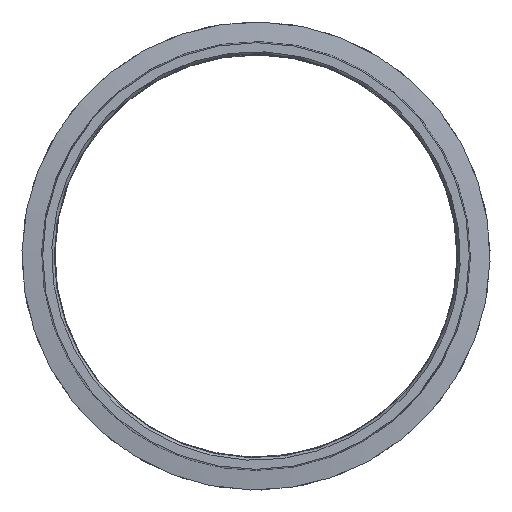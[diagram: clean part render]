
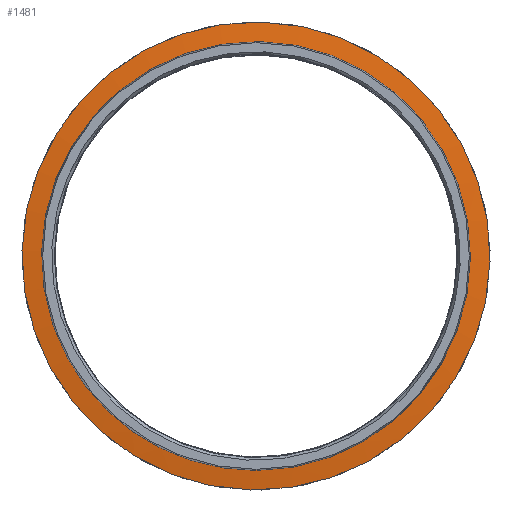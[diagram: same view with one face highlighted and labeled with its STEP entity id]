
A CAD part, left-side view. The second image highlights one B-rep face of the part: STEP entity #1481.
In plain terms, the highlighted conical face has half-angle 83 degrees and reference radius 48.463 mm.
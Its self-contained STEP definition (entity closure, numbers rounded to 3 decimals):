
#272=FACE_OUTER_BOUND('',#380,.T.);
#380=EDGE_LOOP('',(#1238,#1239,#1240,#1241,#1242));
#412=LINE('',#9886,#429);
#429=VECTOR('',#1913,48.463);
#505=CIRCLE('',#1608,52.9);
#506=CIRCLE('',#1609,48.463);
#507=CIRCLE('',#1610,48.463);
#647=VERTEX_POINT('',#5263);
#648=VERTEX_POINT('',#5293);
#649=VERTEX_POINT('',#5294);
#818=EDGE_CURVE('',#647,#647,#505,.T.);
#820=EDGE_CURVE('',#648,#649,#506,.T.);
#821=EDGE_CURVE('',#649,#648,#507,.T.);
#864=EDGE_CURVE('',#647,#648,#412,.T.);
#1238=ORIENTED_EDGE('',*,*,#818,.T.);
#1239=ORIENTED_EDGE('',*,*,#864,.T.);
#1240=ORIENTED_EDGE('',*,*,#820,.T.);
#1241=ORIENTED_EDGE('',*,*,#821,.T.);
#1242=ORIENTED_EDGE('',*,*,#864,.F.);
#1309=CONICAL_SURFACE('',#1641,48.463,1.449);
#1481=ADVANCED_FACE('',(#272),#1309,.T.);
#1608=AXIS2_PLACEMENT_3D('',#5264,#1843,#1844);
#1609=AXIS2_PLACEMENT_3D('',#5295,#1846,#1847);
#1610=AXIS2_PLACEMENT_3D('',#5296,#1848,#1849);
#1641=AXIS2_PLACEMENT_3D('',#9885,#1911,#1912);
#1843=DIRECTION('center_axis',(-1.,0.,0.));
#1844=DIRECTION('ref_axis',(0.,-0.878,0.479));
#1846=DIRECTION('center_axis',(1.,0.,0.));
#1847=DIRECTION('ref_axis',(0.,-0.878,0.479));
#1848=DIRECTION('center_axis',(1.,0.,0.));
#1849=DIRECTION('ref_axis',(0.,-0.878,0.479));
#1911=DIRECTION('center_axis',(1.,0.,0.));
#1912=DIRECTION('ref_axis',(0.,-0.878,0.479));
#1913=DIRECTION('',(-0.122,-0.871,0.476));
#5263=CARTESIAN_POINT('',(-58.201,46.424,-25.362));
#5264=CARTESIAN_POINT('Origin',(-58.201,0.,0.));
#5293=CARTESIAN_POINT('',(-58.746,42.53,-23.234));
#5294=CARTESIAN_POINT('',(-58.746,0.,-48.463));
#5295=CARTESIAN_POINT('Origin',(-58.746,0.,0.));
#5296=CARTESIAN_POINT('Origin',(-58.746,0.,0.));
#9885=CARTESIAN_POINT('Origin',(-58.746,0.,0.));
#9886=CARTESIAN_POINT('',(-58.746,42.53,-23.234));
